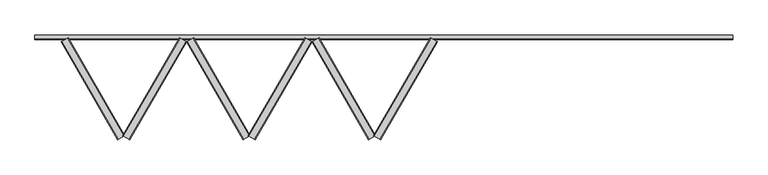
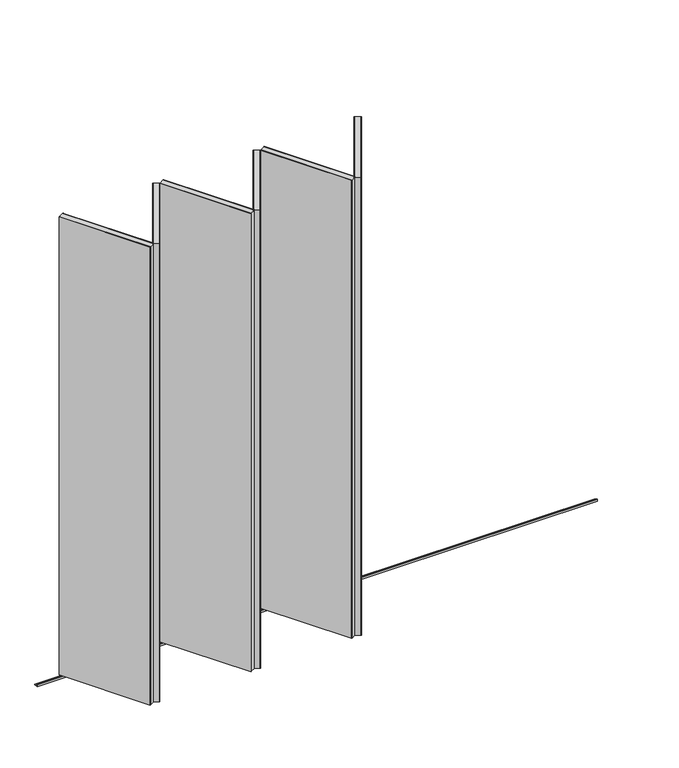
"""IFC4 building model written with IfcOpenShell, lengths in millimetres: proxy geometry, Renson_Amani_Loggia_Canvas_Folding : Renson_Amani_Loggia_Canvas_Folding."""

from ifc_helpers import new_model, si_unit, frame, origin, place, context, project, spatial, polyline, outline, extrude, source, transform, mapped, element, save


def generic_models_989afa71(model_context):
    return source(origin(), model_context, "Body", "SweptSolid", [
        extrude(outline(polyline([(1795.0429399, 21.5), (1792.4448637, 23.0), (2117.4448637, 585.9165125), (2120.0429399, 584.4165125), (1795.0429399, 21.5)])), frame((0.0, 0.0, 45.0), z_axis=(0.0, 0.0, 1.0), x_axis=(1.0, 0.0, 0.0)), (0.0, 0.0, 1.0), 3455.0),
        extrude(outline(polyline([(1832.2820323, 0.0), (1829.6839561, 1.5), (2154.6839561, 564.4165125), (2157.2820323, 562.9165125), (1832.2820323, 0.0)])), frame((0.0, 0.0, 45.0), z_axis=(0.0, 0.0, 1.0), x_axis=(1.0, 0.0, 0.0)), (0.0, 0.0, 1.0), 3455.0),
        extrude(outline(polyline([(3415.0, 40.0), (3415.0, -610.0), (-40.0, -610.0), (-40.0, 40.0), (3415.0, 40.0)]), holes=[polyline([(3375.0, -570.0), (3375.0, 0.0), (0.0, 0.0), (0.0, -570.0), (3375.0, -570.0)])]), frame((2134.6839561, 529.7754963, 85.0), z_axis=(-0.8660254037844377, 0.5000000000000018, 0.0), x_axis=(0.0, 0.0, 1.0)), (0.0, 0.0, 1.0), 40.0),
        extrude(outline(polyline([(1800.5211247, 21.5), (1475.5211247, 584.4165125), (1478.1192009, 585.9165125), (1803.1192009, 23.0), (1800.5211247, 21.5)])), frame((0.0, 0.0, 45.0), z_axis=(0.0, 0.0, 1.0), x_axis=(1.0, 0.0, 0.0)), (0.0, 0.0, 1.0), 3455.0),
        extrude(outline(polyline([(1763.2820323, 0.0), (1438.2820323, 562.9165125), (1440.8801085, 564.4165125), (1765.8801085, 1.5), (1763.2820323, 0.0)])), frame((0.0, 0.0, 45.0), z_axis=(0.0, 0.0, 1.0), x_axis=(1.0, 0.0, 0.0)), (0.0, 0.0, 1.0), 3455.0),
        extrude(outline(polyline([(3415.0, -40.0), (-40.0, -40.0), (-40.0, 610.0), (3415.0, 610.0), (3415.0, -40.0)]), holes=[polyline([(3375.0, 570.0), (0.0, 570.0), (0.0, 0.0), (3375.0, 0.0), (3375.0, 570.0)])]), frame((1460.8801085, 529.7754963, 85.0), z_axis=(0.8660254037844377, 0.5000000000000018, 0.0), x_axis=(0.0, 0.0, 1.0)), (0.0, 0.0, 1.0), 40.0),
        extrude(outline(polyline([(1076.0429399, 21.5), (1073.4448637, 23.0), (1398.4448637, 585.9165125), (1401.0429399, 584.4165125), (1076.0429399, 21.5)])), frame((0.0, 0.0, 45.0), z_axis=(0.0, 0.0, 1.0), x_axis=(1.0, 0.0, 0.0)), (0.0, 0.0, 1.0), 3455.0),
        extrude(outline(polyline([(1113.2820323, 0.0), (1110.6839561, 1.5), (1435.6839561, 564.4165125), (1438.2820323, 562.9165125), (1113.2820323, 0.0)])), frame((0.0, 0.0, 45.0), z_axis=(0.0, 0.0, 1.0), x_axis=(1.0, 0.0, 0.0)), (0.0, 0.0, 1.0), 3455.0),
        extrude(outline(polyline([(3415.0, 40.0), (3415.0, -610.0), (-40.0, -610.0), (-40.0, 40.0), (3415.0, 40.0)]), holes=[polyline([(3375.0, -570.0), (3375.0, 0.0), (0.0, 0.0), (0.0, -570.0), (3375.0, -570.0)])]), frame((1415.6839561, 529.7754963, 85.0), z_axis=(-0.8660254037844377, 0.5000000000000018, 0.0), x_axis=(0.0, 0.0, 1.0)), (0.0, 0.0, 1.0), 40.0),
        extrude(outline(polyline([(1081.5211247, 21.5), (756.5211247, 584.4165125), (759.1192009, 585.9165125), (1084.1192009, 23.0), (1081.5211247, 21.5)])), frame((0.0, 0.0, 45.0), z_axis=(0.0, 0.0, 1.0), x_axis=(1.0, 0.0, 0.0)), (0.0, 0.0, 1.0), 3455.0),
        extrude(outline(polyline([(1044.2820323, 0.0), (719.2820323, 562.9165125), (721.8801085, 564.4165125), (1046.8801085, 1.5), (1044.2820323, 0.0)])), frame((0.0, 0.0, 45.0), z_axis=(0.0, 0.0, 1.0), x_axis=(1.0, 0.0, 0.0)), (0.0, 0.0, 1.0), 3455.0),
        extrude(outline(polyline([(3415.0, -40.0), (-40.0, -40.0), (-40.0, 610.0), (3415.0, 610.0), (3415.0, -40.0)]), holes=[polyline([(3375.0, 570.0), (0.0, 570.0), (0.0, 0.0), (3375.0, 0.0), (3375.0, 570.0)])]), frame((741.8801085, 529.7754963, 85.0), z_axis=(0.8660254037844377, 0.5000000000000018, 0.0), x_axis=(0.0, 0.0, 1.0)), (0.0, 0.0, 1.0), 40.0),
        extrude(outline(polyline([(357.0429399, 21.5), (354.4448637, 23.0), (679.4448637, 585.9165125), (682.0429399, 584.4165125), (357.0429399, 21.5)])), frame((0.0, 0.0, 45.0), z_axis=(0.0, 0.0, 1.0), x_axis=(1.0, 0.0, 0.0)), (0.0, 0.0, 1.0), 3455.0),
        extrude(outline(polyline([(394.2820323, 0.0), (391.6839561, 1.5), (716.6839561, 564.4165125), (719.2820323, 562.9165125), (394.2820323, 0.0)])), frame((0.0, 0.0, 45.0), z_axis=(0.0, 0.0, 1.0), x_axis=(1.0, 0.0, 0.0)), (0.0, 0.0, 1.0), 3455.0),
        extrude(outline(polyline([(3415.0, 40.0), (3415.0, -610.0), (-40.0, -610.0), (-40.0, 40.0), (3415.0, 40.0)]), holes=[polyline([(3375.0, -570.0), (3375.0, 0.0), (0.0, 0.0), (0.0, -570.0), (3375.0, -570.0)])]), frame((696.6839561, 529.7754963, 85.0), z_axis=(-0.8660254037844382, 0.5000000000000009, 0.0), x_axis=(0.0, 0.0, 1.0)), (0.0, 0.0, 1.0), 40.0),
        extrude(outline(polyline([(362.2390924, 21.5), (37.2390924, 584.4165125), (39.8371686, 585.9165125), (364.8371686, 23.0), (362.2390924, 21.5)])), frame((0.0, 0.0, 45.0), z_axis=(0.0, 0.0, 1.0), x_axis=(1.0, 0.0, 0.0)), (0.0, 0.0, 1.0), 3455.0),
        extrude(outline(polyline([(325.0, 0.0), (0.0, 562.9165125), (2.5980762, 564.4165125), (327.5980762, 1.5), (325.0, 0.0)])), frame((0.0, 0.0, 45.0), z_axis=(0.0, 0.0, 1.0), x_axis=(1.0, 0.0, 0.0)), (0.0, 0.0, 1.0), 3455.0),
        extrude(outline(polyline([(3415.0, -40.0), (-40.0, -40.0), (-40.0, 610.0), (3415.0, 610.0), (3415.0, -40.0)]), holes=[polyline([(3375.0, 570.0), (0.0, 570.0), (0.0, 0.0), (3375.0, 0.0), (3375.0, 570.0)])]), frame((22.5980762, 529.7754963, 85.0), z_axis=(0.8660254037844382, 0.5000000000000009, 0.0), x_axis=(0.0, 0.0, 1.0)), (0.0, 0.0, 1.0), 40.0),
        extrude(outline(polyline([(576.9165125, 15.0), (579.9165125, 15.0), (579.9165125, 3.0), (602.9165125, 3.0), (602.9165125, 0.0), (576.9165125, 0.0), (576.9165125, 15.0)])), frame((-150.0, 0.0, 0.0), z_axis=(1.0, 0.0, 0.0), x_axis=(0.0, 1.0, 0.0)), (0.0, 0.0, 1.0), 4000.0),
    ])


if __name__ == "__main__":
    model = new_model("IFC4")
    model_context = context("Model", 3, world=origin())
    ifc_project = project(units=[si_unit("LENGTHUNIT", "METRE", prefix="MILLI")], contexts=[model_context])
    site = spatial("IfcSite", under=ifc_project)
    building = spatial("IfcBuilding", under=site)
    placement = place(None, origin())
    generic_models_shape = generic_models_989afa71(model_context)
    element("IfcBuildingElementProxy", 1, Name="Renson_Amani_Loggia_Canvas_Folding : Renson_Amani_Loggia_Canvas_Folding", ObjectType="Renson_Amani_Loggia_Canvas_Folding : Renson_Amani_Loggia_Canvas_Folding", at=placement, inside=building, context=model_context, shape_type="MappedRepresentation", body=[
        mapped(generic_models_shape, transform((0.0, 0.0, 0.0), x_axis=(1.0, 0.0, 0.0), y_axis=(0.0, 1.0, 0.0), z_axis=(0.0, 0.0, 1.0))),
    ])
    save(model, "model.ifc")
